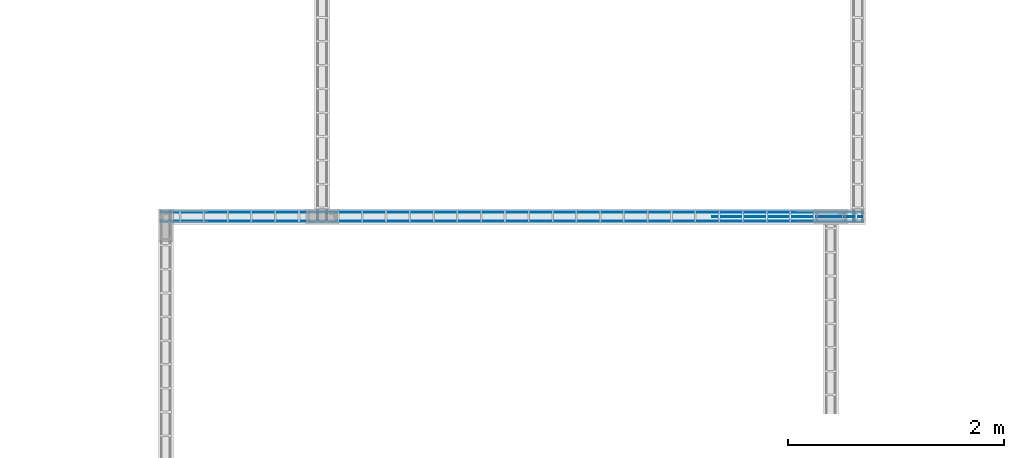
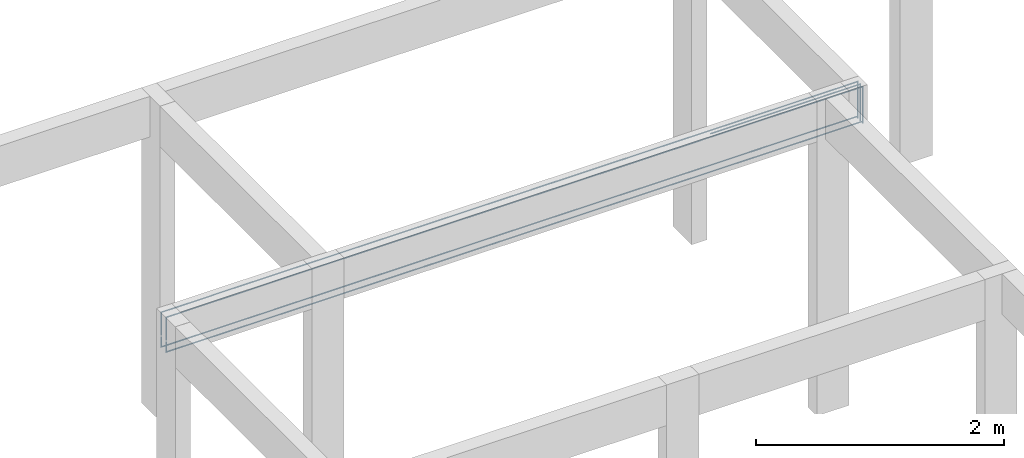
# One storey, part 100 of 236: 5 reinforcing bars.
"""IFC4 building model written with IfcOpenShell, lengths in centimetres."""

from ifc_helpers import new_model, entity, si_unit, derived_unit, frame, origin_with_axes, place, context, project, spatial, element, save


model = new_model("IFC4")

# Units and contexts
model_context = context("Model", 3, precision=1e-05, world=origin_with_axes(), identifier="Body")
ifc_project = project(units=[si_unit("LENGTHUNIT", "METRE", prefix="CENTI"), si_unit("VOLUMEUNIT", "CUBIC_METRE"), si_unit("AREAUNIT", "SQUARE_METRE"), si_unit("POWERUNIT", "WATT"), si_unit("LUMINOUSFLUXUNIT", "LUMEN"), si_unit("ELECTRICCURRENTUNIT", "AMPERE"), si_unit("PRESSUREUNIT", "PASCAL", prefix="KILO"), si_unit("MASSUNIT", "GRAM", prefix="KILO"), si_unit("PLANEANGLEUNIT", "RADIAN"), derived_unit("VOLUMETRICFLOWRATEUNIT", [(si_unit("LENGTHUNIT", "METRE"), 3), (si_unit("TIMEUNIT", "SECOND"), -1)])], contexts=[model_context])

# Site, building, storey
site_placement = place(None, frame((-4000.0, 0.0, 0.0), z_axis=(0.0, 0.0, 1.0), x_axis=(1.0, 0.0, 0.0)))
site = spatial("IfcSite", under=ifc_project, at=site_placement, Name="PADRÃO")
building_placement = place(site_placement, frame((0.0, 0.0, -14.0)))
building = spatial("IfcBuilding", under=site, at=building_placement, Name="CRECHE PRÉ-ESCOLA TIPO 2")
placement_1 = place(building_placement, origin_with_axes())
placement_2 = place(placement_1, frame((0.0, 0.0, 30.0), z_axis=(0.0, 0.0, 1.0), x_axis=(1.0, 0.0, 0.0)))
storey_placement = place(placement_2, frame((0.0, 0.0, 310.0), z_axis=(0.0, 0.0, 1.0), x_axis=(1.0, 0.0, 0.0)))
storey = spatial("IfcBuildingStorey", under=building, at=storey_placement, Name="TERREO", CompositionType="ELEMENT", Elevation=326.0)

# Reinforcing bars
for number, where, z_axis, x_axis, name in (
    (1, (2843.5, 3193.42, -14.8022873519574), (0.0, 0.0, 1.0), (1.0, 0.0, 0.0), "V219 - Longitudinal inferior"),
    (2, (2843.5, 3201.62, -14.8022873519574), (0.0, 0.0, 1.0), (1.0, 0.0, 0.0), "V219 - Longitudinal inferior"),
):
    element("IfcReinforcingBar", number, at=place(storey_placement, frame(where, z_axis=z_axis, x_axis=x_axis)), inside=storey, Name=name, BarLength=0.0, CrossSectionArea=5.0265482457e-05, NominalDiameter=0.8, PredefinedType="MAIN", context=model_context, shape_type="AdvancedSweptSolid", body=[
        entity("IfcSweptDiskSolid", entity("IfcCompositeCurve", [entity("IfcCompositeCurveSegment", "CONTINUOUS", True, entity("IfcPolyline", [entity("IfcCartesianPoint", [-324.6, 0.0, -12.2977126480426]), entity("IfcCartesianPoint", [-324.6, 0.0, -22.2977126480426])])), entity("IfcCompositeCurveSegment", "CONTINUOUS", True, entity("IfcPolyline", [entity("IfcCartesianPoint", [-324.6, 0.0, -22.2977126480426]), entity("IfcCartesianPoint", [324.6, 0.0, -22.2977126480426])])), entity("IfcCompositeCurveSegment", "CONTINUOUS", True, entity("IfcPolyline", [entity("IfcCartesianPoint", [324.6, 0.0, -22.2977126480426]), entity("IfcCartesianPoint", [324.6, 0.0, 0.0])]))], False), 0.4),
    ])
for number, where, z_axis, x_axis, name in (
    (3, (2843.5, 3201.62, -2.49624973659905), (0.0, 0.0, 1.0), (1.0, 0.0, 0.0), "V219 - Longitudinal superior"),
    (4, (2843.5, 3193.42, -2.49624973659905), (0.0, 0.0, 1.0), (1.0, 0.0, 0.0), "V219 - Longitudinal superior"),
):
    element("IfcReinforcingBar", number, at=place(storey_placement, frame(where, z_axis=z_axis, x_axis=x_axis)), inside=storey, Name=name, BarLength=0.0, CrossSectionArea=5.0265482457e-05, NominalDiameter=0.8, PredefinedType="MAIN", context=model_context, shape_type="AdvancedSweptSolid", body=[
        entity("IfcSweptDiskSolid", entity("IfcCompositeCurve", [entity("IfcCompositeCurveSegment", "CONTINUOUS", True, entity("IfcPolyline", [entity("IfcCartesianPoint", [-324.6, 0.0, -22.7014629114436]), entity("IfcCartesianPoint", [-324.6, 0.0, -0.403750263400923])])), entity("IfcCompositeCurveSegment", "CONTINUOUS", True, entity("IfcPolyline", [entity("IfcCartesianPoint", [-324.6, 0.0, -0.403750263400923]), entity("IfcCartesianPoint", [324.6, 0.0, -0.403750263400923])])), entity("IfcCompositeCurveSegment", "CONTINUOUS", True, entity("IfcPolyline", [entity("IfcCartesianPoint", [324.6, 0.0, -0.403750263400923]), entity("IfcCartesianPoint", [324.6, 0.0, -36.4037502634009])]))], False), 0.4),
    ])
reinforcing_bar_placement = place(storey_placement, frame((3098.5018751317, 3197.52, -2.49624973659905), z_axis=(0.0, 0.0, 1.0), x_axis=(1.0, 0.0, 0.0)))
element("IfcReinforcingBar", 5, at=reinforcing_bar_placement, inside=storey, Name="V219 - Longitudinal superior", BarLength=0.0, CrossSectionArea=5.0265482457e-05, NominalDiameter=0.8, PredefinedType="MAIN", context=model_context, shape_type="AdvancedSweptSolid", body=[
    entity("IfcSweptDiskSolid", entity("IfcCompositeCurve", [entity("IfcCompositeCurveSegment", "CONTINUOUS", True, entity("IfcPolyline", [entity("IfcCartesianPoint", [-70.0018751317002, 0.0, -0.403750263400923]), entity("IfcCartesianPoint", [69.5981248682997, 0.0, -0.403750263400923])])), entity("IfcCompositeCurveSegment", "CONTINUOUS", True, entity("IfcPolyline", [entity("IfcCartesianPoint", [69.5981248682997, 0.0, -0.403750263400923]), entity("IfcCartesianPoint", [69.5981248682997, 0.0, -36.4037502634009])]))], False), 0.4),
])

save(model, "model.ifc")
